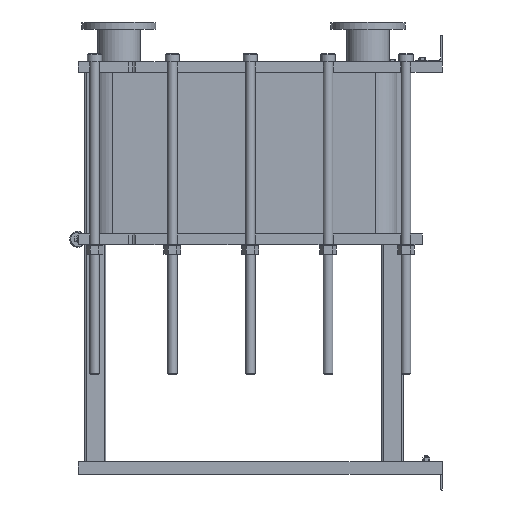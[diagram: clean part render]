
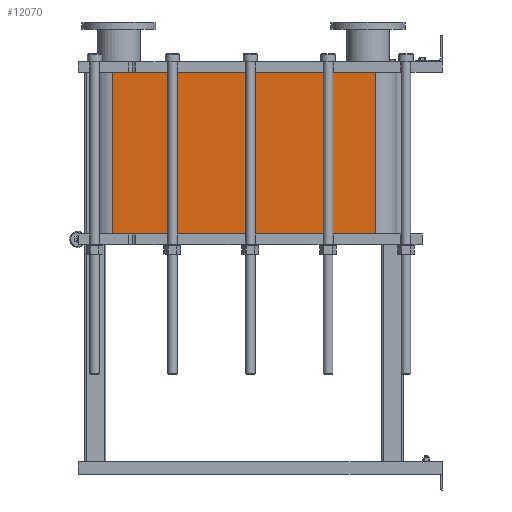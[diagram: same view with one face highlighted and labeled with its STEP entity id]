
A CAD part, left-side view. The second image highlights one B-rep face of the part: STEP entity #12070.
In plain terms, the highlighted planar face has unit normal (-1, 0, 0).
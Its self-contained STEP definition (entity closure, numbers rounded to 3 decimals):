
#1064=LINE('',#21140,#2164);
#1065=LINE('',#21144,#2165);
#1066=LINE('',#21146,#2166);
#1067=LINE('',#21147,#2167);
#2164=VECTOR('',#15790,10.);
#2165=VECTOR('',#15795,10.);
#2166=VECTOR('',#15796,10.);
#2167=VECTOR('',#15797,10.);
#3304=FACE_OUTER_BOUND('',#4091,.T.);
#4091=EDGE_LOOP('',(#9793,#9794,#9795,#9796));
#5677=VERTEX_POINT('',#21137);
#5678=VERTEX_POINT('',#21139);
#5679=VERTEX_POINT('',#21143);
#5680=VERTEX_POINT('',#21145);
#7118=EDGE_CURVE('',#5678,#5677,#1064,.T.);
#7120=EDGE_CURVE('',#5677,#5679,#1065,.T.);
#7121=EDGE_CURVE('',#5680,#5679,#1066,.T.);
#7122=EDGE_CURVE('',#5680,#5678,#1067,.T.);
#9793=ORIENTED_EDGE('',*,*,#7120,.T.);
#9794=ORIENTED_EDGE('',*,*,#7121,.F.);
#9795=ORIENTED_EDGE('',*,*,#7122,.T.);
#9796=ORIENTED_EDGE('',*,*,#7118,.T.);
#11441=PLANE('',#13191);
#12070=ADVANCED_FACE('',(#3304),#11441,.T.);
#13191=AXIS2_PLACEMENT_3D('',#21142,#15793,#15794);
#15790=DIRECTION('',(0.,0.,-1.));
#15793=DIRECTION('center_axis',(-1.,0.,0.));
#15794=DIRECTION('ref_axis',(0.,1.,0.));
#15795=DIRECTION('',(0.,-1.,0.));
#15796=DIRECTION('',(0.,0.,-1.));
#15797=DIRECTION('',(0.,1.,0.));
#21137=CARTESIAN_POINT('',(-248.152,1243.818,-610.65));
#21139=CARTESIAN_POINT('',(-248.152,1243.818,0.));
#21140=CARTESIAN_POINT('',(-248.152,1243.818,0.));
#21142=CARTESIAN_POINT('Origin',(-248.152,251.818,0.));
#21143=CARTESIAN_POINT('',(-248.152,251.818,-610.65));
#21144=CARTESIAN_POINT('',(-248.152,499.818,-610.65));
#21145=CARTESIAN_POINT('',(-248.152,251.818,0.));
#21146=CARTESIAN_POINT('',(-248.152,251.818,0.));
#21147=CARTESIAN_POINT('',(-248.152,251.818,0.));
